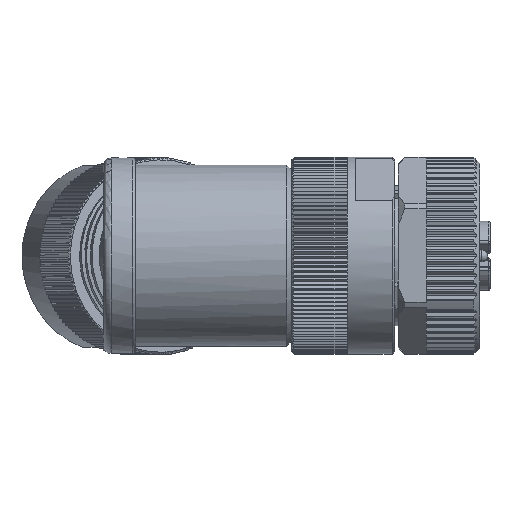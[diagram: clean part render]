
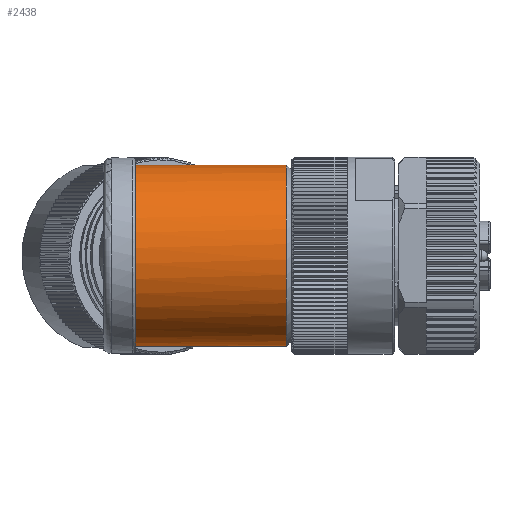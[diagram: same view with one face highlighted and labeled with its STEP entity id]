
A CAD part, top view. The second image highlights one B-rep face of the part: STEP entity #2438.
In plain terms, the highlighted cylindrical face has radius 11.5 mm (diameter 23 mm), a full revolution.
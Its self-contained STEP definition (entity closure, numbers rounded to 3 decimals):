
#293=CYLINDRICAL_SURFACE('',#24628,11.5);
#2438=ADVANCED_FACE('',(#3773,#3774),#293,.T.);
#3773=FACE_BOUND('',#4640,.T.);
#3774=FACE_BOUND('',#4641,.T.);
#4640=EDGE_LOOP('',(#13734));
#4641=EDGE_LOOP('',(#13735,#13736));
#8824=CIRCLE('',#24626,11.5);
#8825=CIRCLE('',#24627,11.5);
#13734=ORIENTED_EDGE('',*,*,#20931,.F.);
#13735=ORIENTED_EDGE('',*,*,#20907,.T.);
#13736=ORIENTED_EDGE('',*,*,#20932,.T.);
#17759=VERTEX_POINT('',#39495);
#17761=VERTEX_POINT('',#39523);
#17780=VERTEX_POINT('',#40614);
#20907=EDGE_CURVE('',#17761,#17759,#22714,.T.);
#20931=EDGE_CURVE('',#17780,#17780,#8824,.T.);
#20932=EDGE_CURVE('',#17759,#17761,#8825,.T.);
#22714=B_SPLINE_CURVE_WITH_KNOTS('',3,(#39497,#39498,#39499,#39500,#39501,
#39502,#39503,#39504,#39505,#39506,#39507,#39508,#39509,#39510,#39511,#39512,
#39513,#39514,#39515,#39516,#39517,#39518,#39519,#39520,#39521,#39522),
 .UNSPECIFIED.,.F.,.F.,(4,2,2,2,2,2,2,2,2,2,2,2,4),(0.,0.125,0.188,0.25,
0.313,0.375,0.5,0.625,0.688,0.75,0.813,0.875,1.),.UNSPECIFIED.);
#24626=AXIS2_PLACEMENT_3D('',#40613,#29242,#29243);
#24627=AXIS2_PLACEMENT_3D('',#40615,#29244,#29245);
#24628=AXIS2_PLACEMENT_3D('',#40616,#29246,#29247);
#29242=DIRECTION('',(1.,0.,0.));
#29243=DIRECTION('',(0.,-1.,0.));
#29244=DIRECTION('',(1.,0.,0.));
#29245=DIRECTION('',(0.,1.,0.));
#29246=DIRECTION('',(-1.,0.,0.));
#29247=DIRECTION('',(0.,1.,0.));
#39495=CARTESIAN_POINT('',(-18.3,6.863,-9.227));
#39497=CARTESIAN_POINT('',(-18.3,-6.863,-9.227));
#39498=CARTESIAN_POINT('',(-16.71,-8.123,-8.29));
#39499=CARTESIAN_POINT('',(-14.883,-8.993,-7.234));
#39500=CARTESIAN_POINT('',(-11.871,-9.81,-6.02));
#39501=CARTESIAN_POINT('',(-10.796,-10.004,-5.672));
#39502=CARTESIAN_POINT('',(-8.56,-10.109,-5.484));
#39503=CARTESIAN_POINT('',(-7.41,-9.994,-5.718));
#39504=CARTESIAN_POINT('',(-5.47,-9.387,-6.667));
#39505=CARTESIAN_POINT('',(-4.651,-8.913,-7.318));
#39506=CARTESIAN_POINT('',(-3.245,-7.719,-8.569));
#39507=CARTESIAN_POINT('',(-2.639,-6.98,-9.194));
#39508=CARTESIAN_POINT('',(-1.147,-4.44,-10.795));
#39509=CARTESIAN_POINT('',(-0.569,-2.236,-11.501));
#39510=CARTESIAN_POINT('',(-0.571,2.248,-11.499));
#39511=CARTESIAN_POINT('',(-1.147,4.437,-10.796));
#39512=CARTESIAN_POINT('',(-2.634,6.972,-9.2));
#39513=CARTESIAN_POINT('',(-3.237,7.71,-8.577));
#39514=CARTESIAN_POINT('',(-4.641,8.907,-7.326));
#39515=CARTESIAN_POINT('',(-5.457,9.381,-6.676));
#39516=CARTESIAN_POINT('',(-7.4,9.992,-5.72));
#39517=CARTESIAN_POINT('',(-8.545,10.108,-5.486));
#39518=CARTESIAN_POINT('',(-10.774,10.007,-5.667));
#39519=CARTESIAN_POINT('',(-11.852,9.815,-6.013));
#39520=CARTESIAN_POINT('',(-14.896,8.99,-7.238));
#39521=CARTESIAN_POINT('',(-16.7,8.131,-8.284));
#39522=CARTESIAN_POINT('',(-18.3,6.863,-9.227));
#39523=CARTESIAN_POINT('',(-18.3,-6.863,-9.227));
#40613=CARTESIAN_POINT('',(0.9,0.,0.));
#40614=CARTESIAN_POINT('',(0.9,-11.5,0.));
#40615=CARTESIAN_POINT('',(-18.3,0.,0.));
#40616=CARTESIAN_POINT('',(-7.1,0.,0.));
